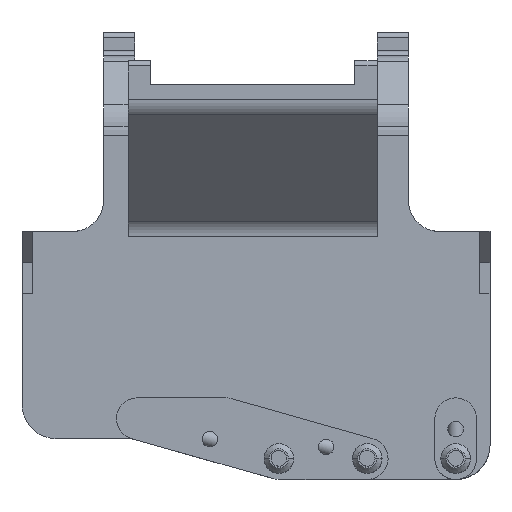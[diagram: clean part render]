
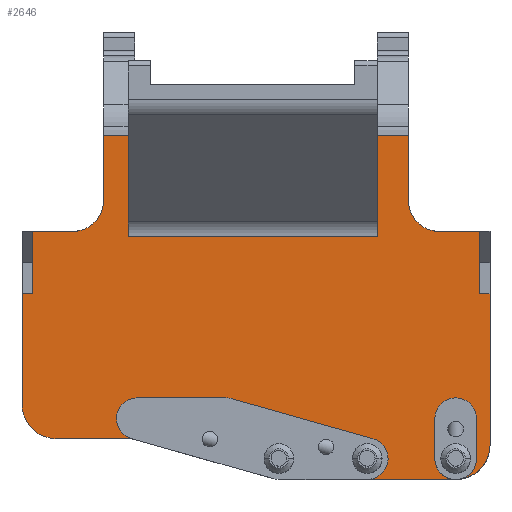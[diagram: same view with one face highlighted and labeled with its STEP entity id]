
A CAD part, top view. The second image highlights one B-rep face of the part: STEP entity #2646.
In plain terms, the highlighted planar face has unit normal (0, 0, -1).
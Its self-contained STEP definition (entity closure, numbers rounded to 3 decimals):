
#163=DIRECTION('',(1.,0.,0.));
#164=VECTOR('',#163,17.);
#165=CARTESIAN_POINT('',(2.2,-15.5,-1.));
#166=LINE('',#165,#164);
#261=DIRECTION('',(1.,0.,0.));
#262=VECTOR('',#261,7.24);
#263=CARTESIAN_POINT('',(-19.2,-11.575,-1.));
#264=LINE('',#263,#262);
#265=CARTESIAN_POINT('',(-19.2,-8.275,-1.));
#266=DIRECTION('',(0.,0.,-1.));
#267=DIRECTION('',(0.,-1.,0.));
#268=AXIS2_PLACEMENT_3D('',#265,#266,#267);
#270=DIRECTION('',(-0.962,0.272,0.));
#271=VECTOR('',#270,14.15);
#272=CARTESIAN_POINT('',(1.656,-15.425,-1.));
#273=LINE('',#272,#271);
#274=CARTESIAN_POINT('',(2.2,-13.5,-1.));
#275=DIRECTION('',(0.,0.,-1.));
#276=DIRECTION('',(0.,-1.,0.));
#277=AXIS2_PLACEMENT_3D('',#274,#275,#276);
#279=CARTESIAN_POINT('',(19.2,-12.2,-1.));
#280=DIRECTION('',(0.,0.,-1.));
#281=DIRECTION('',(1.,0.,0.));
#282=AXIS2_PLACEMENT_3D('',#279,#280,#281);
#284=DIRECTION('',(0.,-1.,0.));
#285=VECTOR('',#284,14.55);
#286=CARTESIAN_POINT('',(22.5,2.35,-1.));
#287=LINE('',#286,#285);
#288=CARTESIAN_POINT('',(17.65,11.35,-1.));
#289=DIRECTION('',(0.,0.,1.));
#290=DIRECTION('',(-1.,0.,0.));
#291=AXIS2_PLACEMENT_3D('',#288,#289,#290);
#293=DIRECTION('',(0.,1.,0.));
#294=VECTOR('',#293,10.975);
#295=CARTESIAN_POINT('',(9.5,8.711,-1.));
#296=LINE('',#295,#294);
#297=DIRECTION('',(0.,-1.,0.));
#298=VECTOR('',#297,10.975);
#299=CARTESIAN_POINT('',(-10.15,19.686,-1.));
#300=LINE('',#299,#298);
#301=CARTESIAN_POINT('',(-17.65,11.35,-1.));
#302=DIRECTION('',(0.,0.,1.));
#303=DIRECTION('',(0.,-1.,0.));
#304=AXIS2_PLACEMENT_3D('',#301,#302,#303);
#306=DIRECTION('',(0.,1.,0.));
#307=VECTOR('',#306,10.625);
#308=CARTESIAN_POINT('',(-22.5,-8.275,-1.));
#309=LINE('',#308,#307);
#310=CARTESIAN_POINT('',(19.2,-9.65,-1.));
#311=DIRECTION('',(0.,0.,1.));
#312=DIRECTION('',(-1.,0.,0.));
#313=AXIS2_PLACEMENT_3D('',#310,#311,#312);
#315=CARTESIAN_POINT('',(19.2,-9.65,-1.));
#316=DIRECTION('',(0.,0.,1.));
#317=DIRECTION('',(1.,0.,0.));
#318=AXIS2_PLACEMENT_3D('',#315,#316,#317);
#320=CARTESIAN_POINT('',(-2.916,-9.65,-1.));
#321=DIRECTION('',(0.,0.,1.));
#322=DIRECTION('',(-1.,0.,0.));
#323=AXIS2_PLACEMENT_3D('',#320,#321,#322);
#325=CARTESIAN_POINT('',(-2.916,-9.65,-1.));
#326=DIRECTION('',(0.,0.,1.));
#327=DIRECTION('',(1.,0.,0.));
#328=AXIS2_PLACEMENT_3D('',#325,#326,#327);
#330=CARTESIAN_POINT('',(-11.416,-9.65,-1.));
#331=DIRECTION('',(0.,0.,1.));
#332=DIRECTION('',(-1.,0.,0.));
#333=AXIS2_PLACEMENT_3D('',#330,#331,#332);
#335=CARTESIAN_POINT('',(-11.416,-9.65,-1.));
#336=DIRECTION('',(0.,0.,1.));
#337=DIRECTION('',(1.,0.,0.));
#338=AXIS2_PLACEMENT_3D('',#335,#336,#337);
#360=DIRECTION('',(-1.,0.,0.));
#361=VECTOR('',#360,3.85);
#362=CARTESIAN_POINT('',(21.5,8.35,-1.));
#363=LINE('',#362,#361);
#444=DIRECTION('',(0.,1.,0.));
#445=VECTOR('',#444,6.264);
#446=CARTESIAN_POINT('',(14.65,11.35,-1.));
#447=LINE('',#446,#445);
#522=DIRECTION('',(-1.,0.,0.));
#523=VECTOR('',#522,2.15);
#524=CARTESIAN_POINT('',(11.65,19.686,-1.));
#525=LINE('',#524,#523);
#652=DIRECTION('',(-1.,0.,0.));
#653=VECTOR('',#652,1.5);
#654=CARTESIAN_POINT('',(-10.15,19.686,-1.));
#655=LINE('',#654,#653);
#679=DIRECTION('',(-1.,0.,0.));
#680=VECTOR('',#679,19.65);
#681=CARTESIAN_POINT('',(9.5,8.711,-1.));
#682=LINE('',#681,#680);
#735=DIRECTION('',(0.,-1.,0.));
#736=VECTOR('',#735,6.264);
#737=CARTESIAN_POINT('',(-14.65,17.614,-1.));
#738=LINE('',#737,#736);
#798=DIRECTION('',(-1.,0.,0.));
#799=VECTOR('',#798,3.85);
#800=CARTESIAN_POINT('',(-17.65,8.35,-1.));
#801=LINE('',#800,#799);
#810=DIRECTION('',(-1.,0.,0.));
#811=VECTOR('',#810,1.);
#812=CARTESIAN_POINT('',(-21.5,2.35,-1.));
#813=LINE('',#812,#811);
#826=DIRECTION('',(0.,-1.,0.));
#827=VECTOR('',#826,6.);
#828=CARTESIAN_POINT('',(-21.5,8.35,-1.));
#829=LINE('',#828,#827);
#850=DIRECTION('',(-1.,0.,0.));
#851=VECTOR('',#850,3.);
#852=CARTESIAN_POINT('',(-11.65,17.614,-1.));
#853=LINE('',#852,#851);
#888=DIRECTION('',(0.,-1.,0.));
#889=VECTOR('',#888,2.071);
#890=CARTESIAN_POINT('',(-11.65,19.686,-1.));
#891=LINE('',#890,#889);
#1051=DIRECTION('',(0.,1.,0.));
#1052=VECTOR('',#1051,2.071);
#1053=CARTESIAN_POINT('',(11.65,17.614,-1.));
#1054=LINE('',#1053,#1052);
#1140=DIRECTION('',(-1.,0.,0.));
#1141=VECTOR('',#1140,3.);
#1142=CARTESIAN_POINT('',(14.65,17.614,-1.));
#1143=LINE('',#1142,#1141);
#1156=DIRECTION('',(0.,1.,0.));
#1157=VECTOR('',#1156,6.);
#1158=CARTESIAN_POINT('',(21.5,2.35,-1.));
#1159=LINE('',#1158,#1157);
#1164=DIRECTION('',(-1.,0.,0.));
#1165=VECTOR('',#1164,1.);
#1166=CARTESIAN_POINT('',(22.5,2.35,-1.));
#1167=LINE('',#1166,#1165);
#1830=CARTESIAN_POINT('',(-11.65,19.686,-1.));
#1831=VERTEX_POINT('',#1830);
#1832=CARTESIAN_POINT('',(-11.65,17.614,-1.));
#1833=VERTEX_POINT('',#1832);
#1924=CARTESIAN_POINT('',(-19.2,-11.575,-1.));
#1925=CARTESIAN_POINT('',(-22.5,-8.275,-1.));
#1926=VERTEX_POINT('',#1924);
#1927=VERTEX_POINT('',#1925);
#1928=CARTESIAN_POINT('',(-22.5,2.35,-1.));
#1929=VERTEX_POINT('',#1928);
#1930=CARTESIAN_POINT('',(-21.5,2.35,-1.));
#1931=VERTEX_POINT('',#1930);
#1932=CARTESIAN_POINT('',(-21.5,8.35,-1.));
#1933=VERTEX_POINT('',#1932);
#1934=CARTESIAN_POINT('',(-17.65,8.35,-1.));
#1935=VERTEX_POINT('',#1934);
#1936=CARTESIAN_POINT('',(-14.65,11.35,-1.));
#1937=VERTEX_POINT('',#1936);
#1938=CARTESIAN_POINT('',(-14.65,17.614,-1.));
#1939=VERTEX_POINT('',#1938);
#1940=CARTESIAN_POINT('',(-10.15,19.686,-1.));
#1941=VERTEX_POINT('',#1940);
#1942=CARTESIAN_POINT('',(-10.15,8.711,-1.));
#1943=VERTEX_POINT('',#1942);
#1944=CARTESIAN_POINT('',(9.5,8.711,-1.));
#1945=VERTEX_POINT('',#1944);
#1946=CARTESIAN_POINT('',(9.5,19.686,-1.));
#1947=VERTEX_POINT('',#1946);
#1948=CARTESIAN_POINT('',(11.65,19.686,-1.));
#1949=VERTEX_POINT('',#1948);
#1950=CARTESIAN_POINT('',(11.65,17.614,-1.));
#1951=VERTEX_POINT('',#1950);
#1952=CARTESIAN_POINT('',(14.65,17.614,-1.));
#1953=VERTEX_POINT('',#1952);
#1954=CARTESIAN_POINT('',(14.65,11.35,-1.));
#1955=VERTEX_POINT('',#1954);
#1956=CARTESIAN_POINT('',(17.65,8.35,-1.));
#1957=VERTEX_POINT('',#1956);
#1958=CARTESIAN_POINT('',(21.5,8.35,-1.));
#1959=VERTEX_POINT('',#1958);
#1960=CARTESIAN_POINT('',(21.5,2.35,-1.));
#1961=VERTEX_POINT('',#1960);
#1962=CARTESIAN_POINT('',(22.5,2.35,-1.));
#1963=VERTEX_POINT('',#1962);
#1964=CARTESIAN_POINT('',(22.5,-12.2,-1.));
#1965=VERTEX_POINT('',#1964);
#1966=CARTESIAN_POINT('',(19.2,-15.5,-1.));
#1967=VERTEX_POINT('',#1966);
#1968=CARTESIAN_POINT('',(2.2,-15.5,-1.));
#1969=VERTEX_POINT('',#1968);
#1970=CARTESIAN_POINT('',(1.656,-15.425,-1.));
#1971=VERTEX_POINT('',#1970);
#1972=CARTESIAN_POINT('',(-11.96,-11.575,-1.));
#1973=VERTEX_POINT('',#1972);
#2211=CARTESIAN_POINT('',(-9.991,-9.65,-1.));
#2212=VERTEX_POINT('',#2211);
#2213=CARTESIAN_POINT('',(-12.841,-9.65,-1.));
#2214=VERTEX_POINT('',#2213);
#2223=CARTESIAN_POINT('',(-1.491,-9.65,-1.));
#2224=VERTEX_POINT('',#2223);
#2225=CARTESIAN_POINT('',(-4.341,-9.65,-1.));
#2226=VERTEX_POINT('',#2225);
#2235=CARTESIAN_POINT('',(20.625,-9.65,-1.));
#2236=VERTEX_POINT('',#2235);
#2237=CARTESIAN_POINT('',(17.775,-9.65,-1.));
#2238=VERTEX_POINT('',#2237);
#2572=CARTESIAN_POINT('',(0.,0.,-1.));
#2573=DIRECTION('',(0.,0.,1.));
#2574=DIRECTION('',(1.,0.,0.));
#2575=AXIS2_PLACEMENT_3D('',#2572,#2573,#2574);
#2576=PLANE('',#2575);
#2577=ORIENTED_EDGE('',*,*,#2552,.F.);
#2578=ORIENTED_EDGE('',*,*,#2567,.T.);
#2579=ORIENTED_EDGE('',*,*,#2407,.F.);
#2580=ORIENTED_EDGE('',*,*,#2423,.F.);
#2581=ORIENTED_EDGE('',*,*,#2442,.T.);
#2583=ORIENTED_EDGE('',*,*,#2582,.F.);
#2585=ORIENTED_EDGE('',*,*,#2584,.F.);
#2587=ORIENTED_EDGE('',*,*,#2586,.T.);
#2589=ORIENTED_EDGE('',*,*,#2588,.T.);
#2591=ORIENTED_EDGE('',*,*,#2590,.T.);
#2593=ORIENTED_EDGE('',*,*,#2592,.F.);
#2595=ORIENTED_EDGE('',*,*,#2594,.T.);
#2597=ORIENTED_EDGE('',*,*,#2596,.T.);
#2599=ORIENTED_EDGE('',*,*,#2598,.T.);
#2601=ORIENTED_EDGE('',*,*,#2600,.T.);
#2603=ORIENTED_EDGE('',*,*,#2602,.F.);
#2605=ORIENTED_EDGE('',*,*,#2604,.T.);
#2607=ORIENTED_EDGE('',*,*,#2606,.F.);
#2609=ORIENTED_EDGE('',*,*,#2608,.T.);
#2611=ORIENTED_EDGE('',*,*,#2610,.T.);
#2613=ORIENTED_EDGE('',*,*,#2612,.T.);
#2615=ORIENTED_EDGE('',*,*,#2614,.T.);
#2617=ORIENTED_EDGE('',*,*,#2616,.F.);
#2619=ORIENTED_EDGE('',*,*,#2618,.T.);
#2621=ORIENTED_EDGE('',*,*,#2620,.T.);
#2623=ORIENTED_EDGE('',*,*,#2622,.T.);
#2625=ORIENTED_EDGE('',*,*,#2624,.F.);
#2626=EDGE_LOOP('',(#2577,#2578,#2579,#2580,#2581,#2583,#2585,#2587,#2589,#2591,
#2593,#2595,#2597,#2599,#2601,#2603,#2605,#2607,#2609,#2611,#2613,#2615,#2617,
#2619,#2621,#2623,#2625));
#2627=FACE_OUTER_BOUND('',#2626,.F.);
#2629=ORIENTED_EDGE('',*,*,#2628,.F.);
#2631=ORIENTED_EDGE('',*,*,#2630,.F.);
#2632=EDGE_LOOP('',(#2629,#2631));
#2633=FACE_BOUND('',#2632,.F.);
#2635=ORIENTED_EDGE('',*,*,#2634,.F.);
#2637=ORIENTED_EDGE('',*,*,#2636,.F.);
#2638=EDGE_LOOP('',(#2635,#2637));
#2639=FACE_BOUND('',#2638,.F.);
#2641=ORIENTED_EDGE('',*,*,#2640,.F.);
#2643=ORIENTED_EDGE('',*,*,#2642,.F.);
#2644=EDGE_LOOP('',(#2641,#2643));
#2645=FACE_BOUND('',#2644,.F.);
#2646=ADVANCED_FACE('',(#2627,#2633,#2639,#2645),#2576,.F.);
#269=CIRCLE('',#268,3.3);
#278=CIRCLE('',#277,2.);
#283=CIRCLE('',#282,3.3);
#292=CIRCLE('',#291,3.);
#305=CIRCLE('',#304,3.);
#314=CIRCLE('',#313,1.425);
#319=CIRCLE('',#318,1.425);
#324=CIRCLE('',#323,1.425);
#329=CIRCLE('',#328,1.425);
#334=CIRCLE('',#333,1.425);
#339=CIRCLE('',#338,1.425);
#2407=EDGE_CURVE('',#1971,#1973,#273,.T.);
#2423=EDGE_CURVE('',#1969,#1971,#278,.T.);
#2442=EDGE_CURVE('',#1969,#1967,#166,.T.);
#2552=EDGE_CURVE('',#1926,#1927,#269,.T.);
#2567=EDGE_CURVE('',#1926,#1973,#264,.T.);
#2582=EDGE_CURVE('',#1965,#1967,#283,.T.);
#2584=EDGE_CURVE('',#1963,#1965,#287,.T.);
#2586=EDGE_CURVE('',#1963,#1961,#1167,.T.);
#2588=EDGE_CURVE('',#1961,#1959,#1159,.T.);
#2590=EDGE_CURVE('',#1959,#1957,#363,.T.);
#2592=EDGE_CURVE('',#1955,#1957,#292,.T.);
#2594=EDGE_CURVE('',#1955,#1953,#447,.T.);
#2596=EDGE_CURVE('',#1953,#1951,#1143,.T.);
#2598=EDGE_CURVE('',#1951,#1949,#1054,.T.);
#2600=EDGE_CURVE('',#1949,#1947,#525,.T.);
#2602=EDGE_CURVE('',#1945,#1947,#296,.T.);
#2604=EDGE_CURVE('',#1945,#1943,#682,.T.);
#2606=EDGE_CURVE('',#1941,#1943,#300,.T.);
#2608=EDGE_CURVE('',#1941,#1831,#655,.T.);
#2610=EDGE_CURVE('',#1831,#1833,#891,.T.);
#2612=EDGE_CURVE('',#1833,#1939,#853,.T.);
#2614=EDGE_CURVE('',#1939,#1937,#738,.T.);
#2616=EDGE_CURVE('',#1935,#1937,#305,.T.);
#2618=EDGE_CURVE('',#1935,#1933,#801,.T.);
#2620=EDGE_CURVE('',#1933,#1931,#829,.T.);
#2622=EDGE_CURVE('',#1931,#1929,#813,.T.);
#2624=EDGE_CURVE('',#1927,#1929,#309,.T.);
#2628=EDGE_CURVE('',#2238,#2236,#314,.T.);
#2630=EDGE_CURVE('',#2236,#2238,#319,.T.);
#2634=EDGE_CURVE('',#2226,#2224,#324,.T.);
#2636=EDGE_CURVE('',#2224,#2226,#329,.T.);
#2640=EDGE_CURVE('',#2214,#2212,#334,.T.);
#2642=EDGE_CURVE('',#2212,#2214,#339,.T.);
